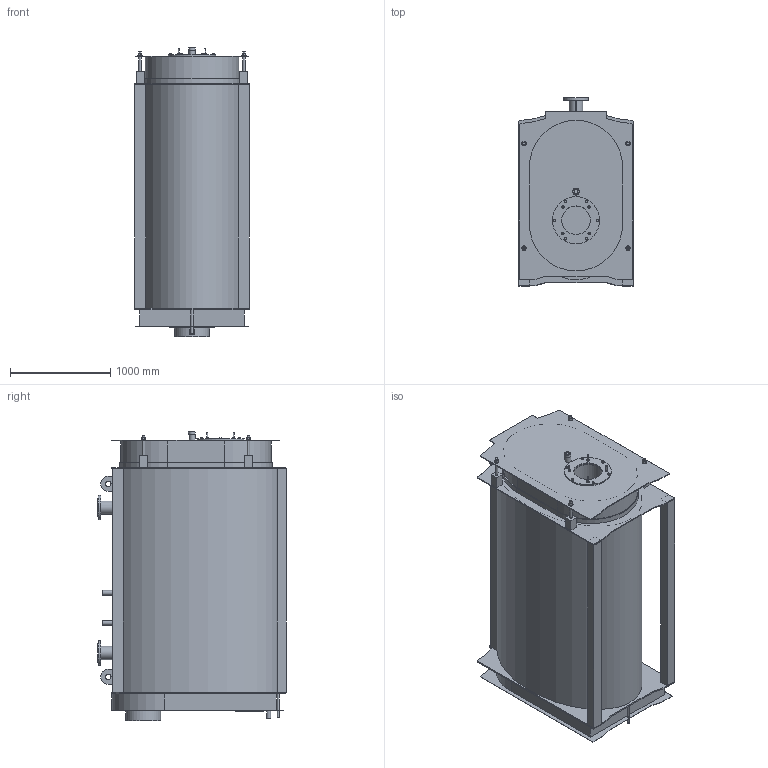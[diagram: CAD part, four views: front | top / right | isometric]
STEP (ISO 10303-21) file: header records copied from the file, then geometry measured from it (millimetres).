
FILE_DESCRIPTION (( 'STEP AP214' ), '1' );
FILE_NAME ('Ultratherm 1350.STEP', '2019-08-21T12:05:32', ( '' ), ( '' ), 'SwSTEP 2.0', 'SolidWorks 2016', '' );
FILE_SCHEMA (( 'AUTOMOTIVE_DESIGN' ));
Length unit declared in the file: millimetre
Products named in the file (2): Ultratherm 1350
Bounding box: 1140 x 1882 x 2890.23 mm (x, y, z)
Volume: 4018344081.3 mm3; surface area: 42049770.5 mm2
Topology: 72 solids, 72 shells, 446 faces, 894 edges, 595 vertices
Faces by surface type: plane 332, cylinder 105, cone 8, bspline 1
Full cylindrical faces by diameter (mm): 12 x4, 14 x4, 15 x2, 18 x16, 21 x2, 24 x18, 34 x1, 39.206 x1, 40 x2, 41.9 x1, 44 x4, 48 x2, 55 x2, 60 x1, 65 x1, 125 x2, 133 x2, 135 x4, 245 x2, 285 x6, 344 x5, 350 x1, 470 x1
Entity records: 11909 total; most frequent: DIRECTION 1909, CARTESIAN_POINT 1865, ORIENTED_EDGE 1596, EDGE_CURVE 798, AXIS2_PLACEMENT_3D 667, EDGE_LOOP 625, VERTEX_POINT 591, LINE 575
